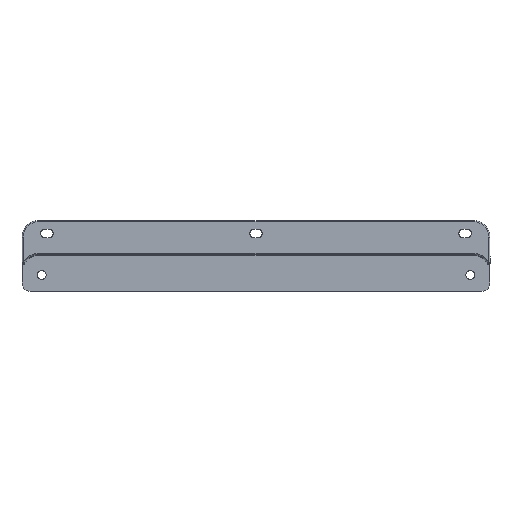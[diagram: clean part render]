
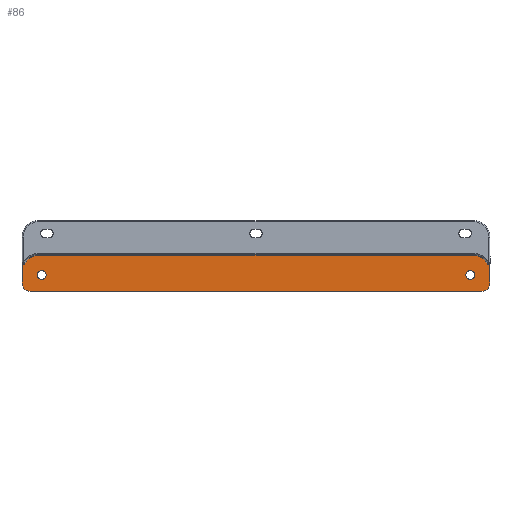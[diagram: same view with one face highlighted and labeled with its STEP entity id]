
A CAD part, top view. The second image highlights one B-rep face of the part: STEP entity #86.
In plain terms, the highlighted planar face has unit normal (0, 0, 1).
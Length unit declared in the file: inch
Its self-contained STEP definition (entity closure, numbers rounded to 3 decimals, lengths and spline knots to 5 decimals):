
#69 = ORIENTED_EDGE ( 'NONE', *, *, #70, .T. ) ;
#70 = EDGE_CURVE ( 'NONE', #78, #71, #670, .T. ) ;
#71 = VERTEX_POINT ( 'NONE', #672 ) ;
#72 = EDGE_LOOP ( 'NONE', ( #73, #75 ) ) ;
#73 = ORIENTED_EDGE ( 'NONE', *, *, #74, .F. ) ;
#74 = EDGE_CURVE ( 'NONE', #751, #753, #684, .T. ) ;
#75 = ORIENTED_EDGE ( 'NONE', *, *, #1411, .F. ) ;
#76 = EDGE_LOOP ( 'NONE', ( #116, #117 ) ) ;
#78 = VERTEX_POINT ( 'NONE', #685 ) ;
#79 = EDGE_LOOP ( 'NONE', ( #87, #69, #129, #122, #125, #132, #90, #95, #136, #107 ) ) ;
#84 = VERTEX_POINT ( 'NONE', #703 ) ;
#85 = EDGE_CURVE ( 'NONE', #84, #78, #709, .T. ) ;
#86 = ADVANCED_FACE ( 'NONE', ( #694, #693, #698 ), #697, .F. ) ;
#87 = ORIENTED_EDGE ( 'NONE', *, *, #85, .T. ) ;
#88 = EDGE_CURVE ( 'NONE', #109, #89, #710, .T. ) ;
#89 = VERTEX_POINT ( 'NONE', #689 ) ;
#90 = ORIENTED_EDGE ( 'NONE', *, *, #93, .F. ) ;
#91 = EDGE_CURVE ( 'NONE', #106, #84, #702, .T. ) ;
#93 = EDGE_CURVE ( 'NONE', #94, #89, #1876, .T. ) ;
#94 = VERTEX_POINT ( 'NONE', #1895 ) ;
#95 = ORIENTED_EDGE ( 'NONE', *, *, #133, .T. ) ;
#106 = VERTEX_POINT ( 'NONE', #1448 ) ;
#107 = ORIENTED_EDGE ( 'NONE', *, *, #91, .T. ) ;
#108 = EDGE_CURVE ( 'NONE', #124, #109, #1459, .T. ) ;
#109 = VERTEX_POINT ( 'NONE', #1452 ) ;
#116 = ORIENTED_EDGE ( 'NONE', *, *, #1415, .T. ) ;
#117 = ORIENTED_EDGE ( 'NONE', *, *, #260, .T. ) ;
#122 = ORIENTED_EDGE ( 'NONE', *, *, #123, .T. ) ;
#123 = EDGE_CURVE ( 'NONE', #131, #124, #1529, .T. ) ;
#124 = VERTEX_POINT ( 'NONE', #1464 ) ;
#125 = ORIENTED_EDGE ( 'NONE', *, *, #108, .T. ) ;
#129 = ORIENTED_EDGE ( 'NONE', *, *, #130, .T. ) ;
#130 = EDGE_CURVE ( 'NONE', #71, #131, #1463, .T. ) ;
#131 = VERTEX_POINT ( 'NONE', #1526 ) ;
#132 = ORIENTED_EDGE ( 'NONE', *, *, #88, .T. ) ;
#133 = EDGE_CURVE ( 'NONE', #94, #134, #1525, .T. ) ;
#134 = VERTEX_POINT ( 'NONE', #1519 ) ;
#136 = ORIENTED_EDGE ( 'NONE', *, *, #137, .T. ) ;
#137 = EDGE_CURVE ( 'NONE', #134, #106, #1518, .T. ) ;
#260 = EDGE_CURVE ( 'NONE', #1388, #1416, #1702, .T. ) ;
#670 = CIRCLE ( 'NONE', #676, 0.065 ) ;
#672 = CARTESIAN_POINT ( 'NONE',  ( 6.94243, -0.22567, -0.1 ) ) ;
#673 = DIRECTION ( 'NONE',  ( -1., 0., 0. ) ) ;
#674 = DIRECTION ( 'NONE',  ( 0., 0., -1. ) ) ;
#675 = CARTESIAN_POINT ( 'NONE',  ( 6.9995, -0.19455, -0.1 ) ) ;
#676 = AXIS2_PLACEMENT_3D ( 'NONE', #675, #674, #673 ) ;
#680 = DIRECTION ( 'NONE',  ( 1., 0., 0. ) ) ;
#681 = DIRECTION ( 'NONE',  ( 0., 0., 1. ) ) ;
#682 = CARTESIAN_POINT ( 'NONE',  ( 6.4375, -0.5745, -0.1 ) ) ;
#683 = AXIS2_PLACEMENT_3D ( 'NONE', #682, #681, #680 ) ;
#684 = CIRCLE ( 'NONE', #683, 0.133 ) ;
#685 = CARTESIAN_POINT ( 'NONE',  ( 7.032, -0.25084, -0.1 ) ) ;
#688 = CARTESIAN_POINT ( 'NONE',  ( 6.782, -0.8125, -0.1 ) ) ;
#689 = CARTESIAN_POINT ( 'NONE',  ( -7.032, -0.25084, -0.1 ) ) ;
#690 = DIRECTION ( 'NONE',  ( -1., 0., 0. ) ) ;
#691 = DIRECTION ( 'NONE',  ( 0., 0., -1. ) ) ;
#692 = AXIS2_PLACEMENT_3D ( 'NONE', #707, #691, #690 ) ;
#693 = FACE_BOUND ( 'NONE', #72, .T. ) ;
#694 = FACE_OUTER_BOUND ( 'NONE', #79, .T. ) ;
#695 = DIRECTION ( 'NONE',  ( 0., 1., 0. ) ) ;
#696 = VECTOR ( 'NONE', #695, 39.37008 ) ;
#697 = PLANE ( 'NONE',  #706 ) ;
#698 = FACE_BOUND ( 'NONE', #76, .T. ) ;
#699 = DIRECTION ( 'NONE',  ( -1., 0., 0. ) ) ;
#700 = DIRECTION ( 'NONE',  ( 0., 0., 1. ) ) ;
#701 = AXIS2_PLACEMENT_3D ( 'NONE', #688, #700, #699 ) ;
#702 = CIRCLE ( 'NONE', #701, 0.25 ) ;
#703 = CARTESIAN_POINT ( 'NONE',  ( 7.032, -0.8125, -0.1 ) ) ;
#704 = DIRECTION ( 'NONE',  ( 0., 0., -1. ) ) ;
#705 = CARTESIAN_POINT ( 'NONE',  ( 6.532, -0.4495, -0.1 ) ) ;
#706 = AXIS2_PLACEMENT_3D ( 'NONE', #705, #704, #711 ) ;
#707 = CARTESIAN_POINT ( 'NONE',  ( -6.9995, -0.19455, -0.1 ) ) ;
#708 = CARTESIAN_POINT ( 'NONE',  ( 7.032, -0.4495, -0.1 ) ) ;
#709 = LINE ( 'NONE', #708, #696 ) ;
#710 = CIRCLE ( 'NONE', #692, 0.065 ) ;
#711 = DIRECTION ( 'NONE',  ( -1., 0., 0. ) ) ;
#751 = VERTEX_POINT ( 'NONE', #1111 ) ;
#753 = VERTEX_POINT ( 'NONE', #1106 ) ;
#1106 = CARTESIAN_POINT ( 'NONE',  ( 6.3045, -0.5745, -0.1 ) ) ;
#1111 = CARTESIAN_POINT ( 'NONE',  ( 6.5705, -0.5745, -0.1 ) ) ;
#1240 = CARTESIAN_POINT ( 'NONE',  ( -6.5705, -0.5745, -0.1 ) ) ;
#1254 = DIRECTION ( 'NONE',  ( 1., 0., 0. ) ) ;
#1255 = DIRECTION ( 'NONE',  ( 0., 0., 1. ) ) ;
#1256 = CARTESIAN_POINT ( 'NONE',  ( 6.4375, -0.5745, -0.1 ) ) ;
#1257 = AXIS2_PLACEMENT_3D ( 'NONE', #1256, #1255, #1254 ) ;
#1258 = CIRCLE ( 'NONE', #1257, 0.133 ) ;
#1302 = CARTESIAN_POINT ( 'NONE',  ( -6.3045, -0.5745, -0.1 ) ) ;
#1303 = DIRECTION ( 'NONE',  ( -1., 0., 0. ) ) ;
#1304 = DIRECTION ( 'NONE',  ( 0., 0., -1. ) ) ;
#1305 = CARTESIAN_POINT ( 'NONE',  ( -6.4375, -0.5745, -0.1 ) ) ;
#1306 = AXIS2_PLACEMENT_3D ( 'NONE', #1305, #1304, #1303 ) ;
#1307 = CIRCLE ( 'NONE', #1306, 0.133 ) ;
#1388 = VERTEX_POINT ( 'NONE', #1240 ) ;
#1411 = EDGE_CURVE ( 'NONE', #753, #751, #1258, .T. ) ;
#1415 = EDGE_CURVE ( 'NONE', #1416, #1388, #1307, .T. ) ;
#1416 = VERTEX_POINT ( 'NONE', #1302 ) ;
#1443 = CARTESIAN_POINT ( 'NONE',  ( -6.532, -0.4495, -0.1 ) ) ;
#1448 = CARTESIAN_POINT ( 'NONE',  ( 6.782, -1.0625, -0.1 ) ) ;
#1452 = CARTESIAN_POINT ( 'NONE',  ( -6.94243, -0.22567, -0.1 ) ) ;
#1453 = DIRECTION ( 'NONE',  ( -1., 0., 0. ) ) ;
#1454 = DIRECTION ( 'NONE',  ( 0., 0., 1. ) ) ;
#1458 = AXIS2_PLACEMENT_3D ( 'NONE', #1443, #1454, #1453 ) ;
#1459 = CIRCLE ( 'NONE', #1458, 0.4675 ) ;
#1460 = DIRECTION ( 'NONE',  ( 0., 0., 1. ) ) ;
#1461 = CARTESIAN_POINT ( 'NONE',  ( 6.532, -0.4495, -0.1 ) ) ;
#1462 = AXIS2_PLACEMENT_3D ( 'NONE', #1461, #1460, #1527 ) ;
#1463 = CIRCLE ( 'NONE', #1462, 0.4675 ) ;
#1464 = CARTESIAN_POINT ( 'NONE',  ( -6.532, 0.018, -0.1 ) ) ;
#1465 = DIRECTION ( 'NONE',  ( -1., 0., 0. ) ) ;
#1466 = VECTOR ( 'NONE', #1465, 39.37008 ) ;
#1517 = CARTESIAN_POINT ( 'NONE',  ( 7.032, -1.0625, -0.1 ) ) ;
#1518 = LINE ( 'NONE', #1517, #1568 ) ;
#1519 = CARTESIAN_POINT ( 'NONE',  ( -6.782, -1.0625, -0.1 ) ) ;
#1520 = DIRECTION ( 'NONE',  ( -1., 0., 0. ) ) ;
#1521 = DIRECTION ( 'NONE',  ( 0., 0., 1. ) ) ;
#1523 = CARTESIAN_POINT ( 'NONE',  ( -6.782, -0.8125, -0.1 ) ) ;
#1524 = AXIS2_PLACEMENT_3D ( 'NONE', #1523, #1521, #1520 ) ;
#1525 = CIRCLE ( 'NONE', #1524, 0.25 ) ;
#1526 = CARTESIAN_POINT ( 'NONE',  ( 6.532, 0.018, -0.1 ) ) ;
#1527 = DIRECTION ( 'NONE',  ( -1., 0., 0. ) ) ;
#1528 = CARTESIAN_POINT ( 'NONE',  ( -6.532, 0.018, -0.1 ) ) ;
#1529 = LINE ( 'NONE', #1528, #1466 ) ;
#1567 = DIRECTION ( 'NONE',  ( 1., 0., 0. ) ) ;
#1568 = VECTOR ( 'NONE', #1567, 39.37008 ) ;
#1698 = DIRECTION ( 'NONE',  ( -1., 0., 0. ) ) ;
#1699 = DIRECTION ( 'NONE',  ( 0., 0., -1. ) ) ;
#1700 = CARTESIAN_POINT ( 'NONE',  ( -6.4375, -0.5745, -0.1 ) ) ;
#1701 = AXIS2_PLACEMENT_3D ( 'NONE', #1700, #1699, #1698 ) ;
#1702 = CIRCLE ( 'NONE', #1701, 0.133 ) ;
#1875 = CARTESIAN_POINT ( 'NONE',  ( -7.032, -0.4495, -0.1 ) ) ;
#1876 = LINE ( 'NONE', #1875, #1878 ) ;
#1878 = VECTOR ( 'NONE', #1896, 39.37008 ) ;
#1895 = CARTESIAN_POINT ( 'NONE',  ( -7.032, -0.8125, -0.1 ) ) ;
#1896 = DIRECTION ( 'NONE',  ( 0., 1., 0. ) ) ;
